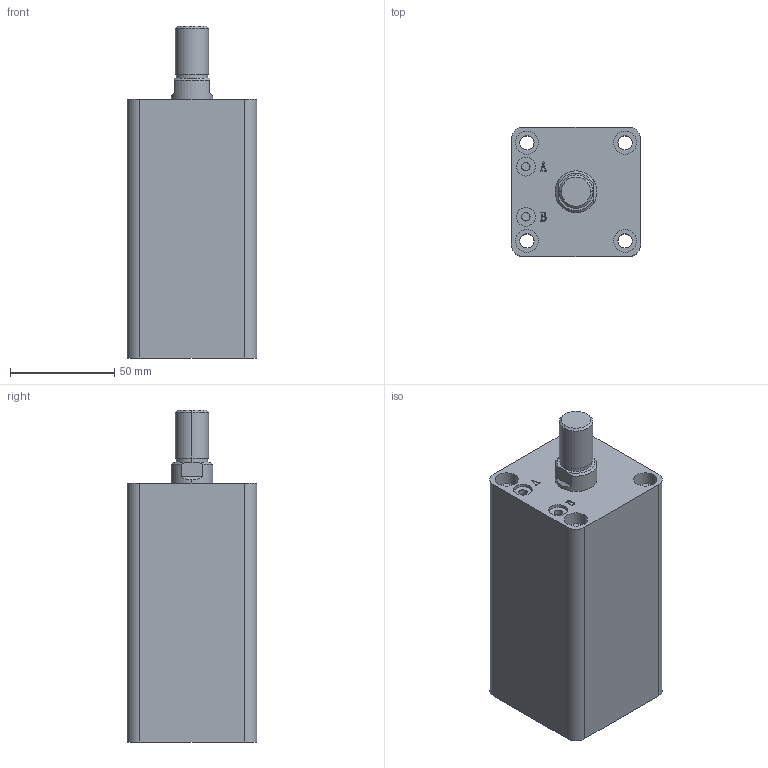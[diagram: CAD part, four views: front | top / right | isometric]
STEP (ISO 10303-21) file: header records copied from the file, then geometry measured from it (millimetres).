
FILE_DESCRIPTION (( 'STEP AP203' ), '1' );
FILE_NAME ('HTB-SDMA32-70W.STEP', '2019-10-07T11:43:31', ( '微软用户' ), ( '微软中国' ), 'SwSTEP 2.0', 'SolidWorks 2012', '' );
FILE_SCHEMA (( 'CONFIG_CONTROL_DESIGN' ));
Length unit declared in the file: millimetre
Products named in the file (3): HTB-SDMA32-70W; HTB-SDMA32-70W活塞杆; HTB-SDMA32-70掛极
Assembly tree (2 placements, depth 2):
  HTB-SDMA32-70W
    HTB-SDMA32-70掛极
    HTB-SDMA32-70W活塞杆
Bounding box: 62 x 62 x 159 mm (x, y, z)
Volume: 424887.7 mm3; surface area: 71207.4 mm2
Topology: 2 solids, 2 shells, 141 faces, 337 edges, 222 vertices
Faces by surface type: plane 67, cylinder 48, bspline 16, torus 6, cone 4
Entity records: 5176 total; most frequent: CARTESIAN_POINT 1593, ORIENTED_EDGE 674, DIRECTION 669, EDGE_CURVE 337, AXIS2_PLACEMENT_3D 242, VERTEX_POINT 222, VECTOR 185, LINE 185
